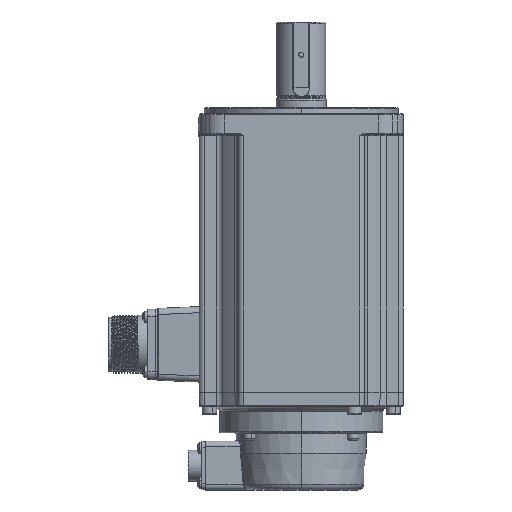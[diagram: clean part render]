
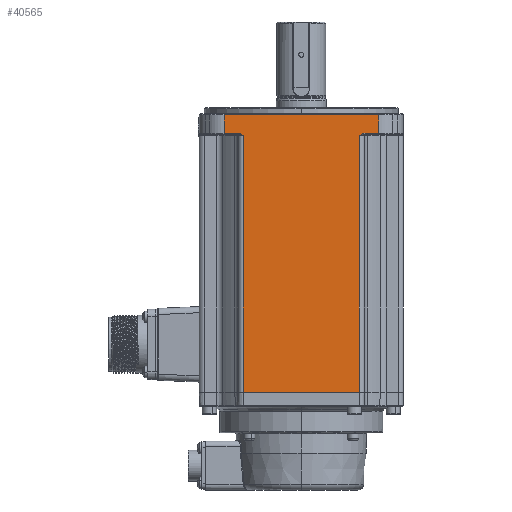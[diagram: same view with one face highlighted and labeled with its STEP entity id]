
A CAD part, left-side view. The second image highlights one B-rep face of the part: STEP entity #40565.
In plain terms, the highlighted planar face has unit normal (-1, 0, 0).
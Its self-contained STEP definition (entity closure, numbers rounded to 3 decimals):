
#747 = EDGE_CURVE ( 'NONE', #12589, #63570, #14446, .T. ) ;
#1867 = PLANE ( 'NONE',  #56612 ) ;
#2243 = CARTESIAN_POINT ( 'NONE',  ( -50., -30.736, -12.6 ) ) ;
#2771 = B_SPLINE_CURVE_WITH_KNOTS ( 'NONE', 3,
 ( #34861, #79889, #49813, #95407, #19863, #11905 ),
 .UNSPECIFIED., .F., .F.,
 ( 4, 2, 4 ),
 ( 0., 0.001, 0.002 ),
 .UNSPECIFIED. ) ;
#3734 = CARTESIAN_POINT ( 'NONE',  ( -50., 28.5, -168.7 ) ) ;
#4066 = DIRECTION ( 'NONE',  ( 0., 1., 0. ) ) ;
#5763 = LINE ( 'NONE', #45579, #63718 ) ;
#7032 = CARTESIAN_POINT ( 'NONE',  ( -50., -37.858, -3.5 ) ) ;
#11905 = CARTESIAN_POINT ( 'NONE',  ( -50., 28.5, -13.6 ) ) ;
#12589 = VERTEX_POINT ( 'NONE', #60899 ) ;
#13251 = ORIENTED_EDGE ( 'NONE', *, *, #55192, .T. ) ;
#13329 = VECTOR ( 'NONE', #32238, 1000. ) ;
#14427 = CARTESIAN_POINT ( 'NONE',  ( -50., -30.736, -12.6 ) ) ;
#14446 = LINE ( 'NONE', #37350, #13329 ) ;
#14773 = CARTESIAN_POINT ( 'NONE',  ( -50., -28.839, -13.36 ) ) ;
#16299 = DIRECTION ( 'NONE',  ( 0., -1., 0. ) ) ;
#19863 = CARTESIAN_POINT ( 'NONE',  ( -50., 28.839, -13.36 ) ) ;
#22862 = ORIENTED_EDGE ( 'NONE', *, *, #38722, .T. ) ;
#24849 = CARTESIAN_POINT ( 'NONE',  ( -50., -42., -12.6 ) ) ;
#25763 = VERTEX_POINT ( 'NONE', #31200 ) ;
#27853 = VERTEX_POINT ( 'NONE', #2243 ) ;
#27947 = CARTESIAN_POINT ( 'NONE',  ( -50., 37.858, -3.5 ) ) ;
#28293 = EDGE_LOOP ( 'NONE', ( #78023, #22862, #92465, #90565, #49685, #82265, #61155, #54398, #69809, #13251 ) ) ;
#28655 = VECTOR ( 'NONE', #53935, 1000. ) ;
#29690 = VECTOR ( 'NONE', #35487, 1000. ) ;
#29785 = LINE ( 'NONE', #60220, #50440 ) ;
#30171 = VERTEX_POINT ( 'NONE', #78743 ) ;
#31200 = CARTESIAN_POINT ( 'NONE',  ( -50., 28.5, -13.6 ) ) ;
#31813 = DIRECTION ( 'NONE',  ( -1., 0., 0. ) ) ;
#32238 = DIRECTION ( 'NONE',  ( 0., 0., 1. ) ) ;
#34138 = DIRECTION ( 'NONE',  ( 0., 0., 1. ) ) ;
#34861 = CARTESIAN_POINT ( 'NONE',  ( -50., 30.736, -12.6 ) ) ;
#35487 = DIRECTION ( 'NONE',  ( 0., 0., 1. ) ) ;
#36291 = EDGE_CURVE ( 'NONE', #30171, #27853, #81601, .T. ) ;
#36586 = EDGE_CURVE ( 'NONE', #27853, #12589, #29785, .T. ) ;
#36655 = CARTESIAN_POINT ( 'NONE',  ( -50., 28.5, -139.5 ) ) ;
#37350 = CARTESIAN_POINT ( 'NONE',  ( -50., -37.858, -310.121 ) ) ;
#38722 = EDGE_CURVE ( 'NONE', #95368, #62487, #60513, .T. ) ;
#40565 = ADVANCED_FACE ( 'NONE', ( #70756 ), #1867, .T. ) ;
#45579 = CARTESIAN_POINT ( 'NONE',  ( -50., 37.858, -310.121 ) ) ;
#45794 = CARTESIAN_POINT ( 'NONE',  ( -50., -29.912, -12.743 ) ) ;
#47394 = EDGE_CURVE ( 'NONE', #74514, #81446, #93368, .T. ) ;
#49685 = ORIENTED_EDGE ( 'NONE', *, *, #36586, .T. ) ;
#49813 = CARTESIAN_POINT ( 'NONE',  ( -50., 29.912, -12.743 ) ) ;
#50415 = LINE ( 'NONE', #27947, #60530 ) ;
#50440 = VECTOR ( 'NONE', #90788, 1000. ) ;
#51997 = CARTESIAN_POINT ( 'NONE',  ( -50., -42., -139.5 ) ) ;
#53935 = DIRECTION ( 'NONE',  ( 0., -1., 0. ) ) ;
#54246 = CARTESIAN_POINT ( 'NONE',  ( -50., -30.315, -12.6 ) ) ;
#54398 = ORIENTED_EDGE ( 'NONE', *, *, #68984, .T. ) ;
#54870 = EDGE_CURVE ( 'NONE', #62487, #30171, #72983, .T. ) ;
#55192 = EDGE_CURVE ( 'NONE', #81446, #25763, #2771, .T. ) ;
#56612 = AXIS2_PLACEMENT_3D ( 'NONE', #84807, #31813, #16299 ) ;
#57883 = CARTESIAN_POINT ( 'NONE',  ( -50., -28.5, -168.7 ) ) ;
#59162 = CARTESIAN_POINT ( 'NONE',  ( -50., -28.5, -13.6 ) ) ;
#60107 = DIRECTION ( 'NONE',  ( 0., 0., -1. ) ) ;
#60220 = CARTESIAN_POINT ( 'NONE',  ( -50., -42., -12.6 ) ) ;
#60450 = CARTESIAN_POINT ( 'NONE',  ( -50., 30.736, -12.6 ) ) ;
#60513 = LINE ( 'NONE', #51997, #28655 ) ;
#60530 = VECTOR ( 'NONE', #4066, 1000. ) ;
#60899 = CARTESIAN_POINT ( 'NONE',  ( -50., -37.858, -12.6 ) ) ;
#61155 = ORIENTED_EDGE ( 'NONE', *, *, #67964, .T. ) ;
#62291 = CARTESIAN_POINT ( 'NONE',  ( -50., -29.178, -13.12 ) ) ;
#62487 = VERTEX_POINT ( 'NONE', #93804 ) ;
#63570 = VERTEX_POINT ( 'NONE', #7032 ) ;
#63718 = VECTOR ( 'NONE', #60107, 1000. ) ;
#64100 = CARTESIAN_POINT ( 'NONE',  ( -50., 37.858, -3.5 ) ) ;
#64108 = LINE ( 'NONE', #3734, #70488 ) ;
#67964 = EDGE_CURVE ( 'NONE', #63570, #74062, #50415, .T. ) ;
#68984 = EDGE_CURVE ( 'NONE', #74062, #74514, #5763, .T. ) ;
#69809 = ORIENTED_EDGE ( 'NONE', *, *, #47394, .T. ) ;
#70488 = VECTOR ( 'NONE', #34138, 1000. ) ;
#70756 = FACE_OUTER_BOUND ( 'NONE', #28293, .T. ) ;
#71024 = CARTESIAN_POINT ( 'NONE',  ( -50., 37.858, -12.6 ) ) ;
#72983 = LINE ( 'NONE', #57883, #29690 ) ;
#74062 = VERTEX_POINT ( 'NONE', #64100 ) ;
#74514 = VERTEX_POINT ( 'NONE', #71024 ) ;
#77648 = VECTOR ( 'NONE', #85887, 1000. ) ;
#78023 = ORIENTED_EDGE ( 'NONE', *, *, #98689, .F. ) ;
#78743 = CARTESIAN_POINT ( 'NONE',  ( -50., -28.5, -13.6 ) ) ;
#79889 = CARTESIAN_POINT ( 'NONE',  ( -50., 30.315, -12.6 ) ) ;
#81446 = VERTEX_POINT ( 'NONE', #60450 ) ;
#81601 = B_SPLINE_CURVE_WITH_KNOTS ( 'NONE', 3,
 ( #59162, #14773, #62291, #45794, #54246, #14427 ),
 .UNSPECIFIED., .F., .F.,
 ( 4, 2, 4 ),
 ( 0., 0.001, 0.002 ),
 .UNSPECIFIED. ) ;
#82265 = ORIENTED_EDGE ( 'NONE', *, *, #747, .T. ) ;
#84807 = CARTESIAN_POINT ( 'NONE',  ( -50., -42., -310.121 ) ) ;
#85887 = DIRECTION ( 'NONE',  ( 0., -1., 0. ) ) ;
#90565 = ORIENTED_EDGE ( 'NONE', *, *, #36291, .T. ) ;
#90788 = DIRECTION ( 'NONE',  ( 0., -1., 0. ) ) ;
#92465 = ORIENTED_EDGE ( 'NONE', *, *, #54870, .T. ) ;
#93368 = LINE ( 'NONE', #24849, #77648 ) ;
#93804 = CARTESIAN_POINT ( 'NONE',  ( -50., -28.5, -139.5 ) ) ;
#95368 = VERTEX_POINT ( 'NONE', #36655 ) ;
#95407 = CARTESIAN_POINT ( 'NONE',  ( -50., 29.178, -13.12 ) ) ;
#98689 = EDGE_CURVE ( 'NONE', #95368, #25763, #64108, .T. ) ;
